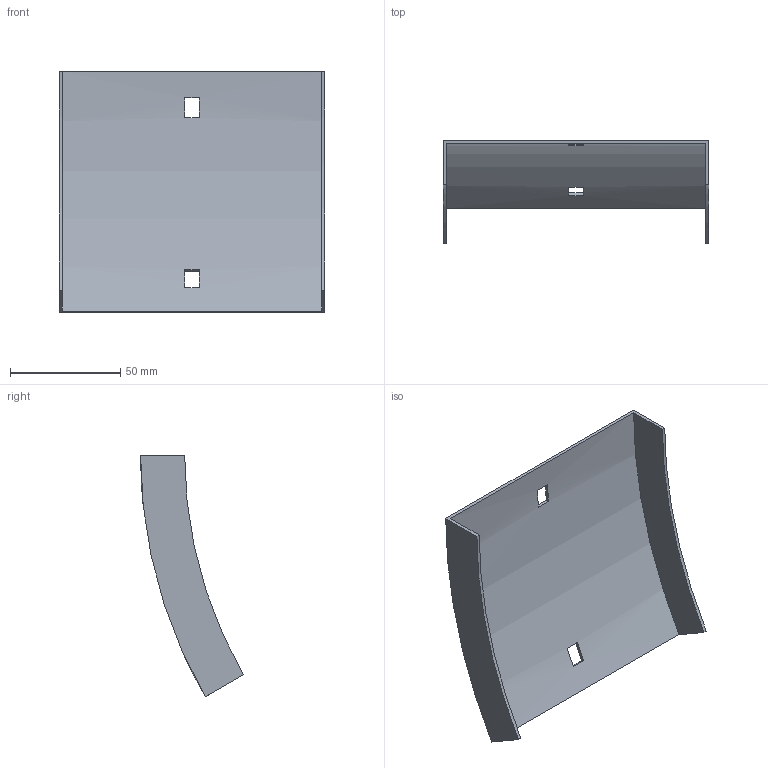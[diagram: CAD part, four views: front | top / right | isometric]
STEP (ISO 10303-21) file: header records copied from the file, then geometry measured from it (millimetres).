
FILE_DESCRIPTION (( 'STEP AP214' ), '1' );
FILE_NAME ('35N1J117.step', '2025-02-21T09:11:18', ( '' ), ( '' ), 'SwSTEP 2.0', 'SolidWorks 2023', '' );
FILE_SCHEMA (( 'AUTOMOTIVE_DESIGN' ));
Length unit declared in the file: millimetre
Products named in the file (1): 35N1J117
Bounding box: 120.5 x 46.66 x 109.5 mm (x, y, z)
Volume: 26531 mm3; surface area: 36254.2 mm2
Topology: 1 solids, 1 shells, 18 faces, 48 edges, 32 vertices
Faces by surface type: plane 14, cylinder 4
Entity records: 599 total; most frequent: DIRECTION 102, CARTESIAN_POINT 99, ORIENTED_EDGE 96, EDGE_CURVE 48, AXIS2_PLACEMENT_3D 35, VERTEX_POINT 32, VECTOR 32, LINE 32
